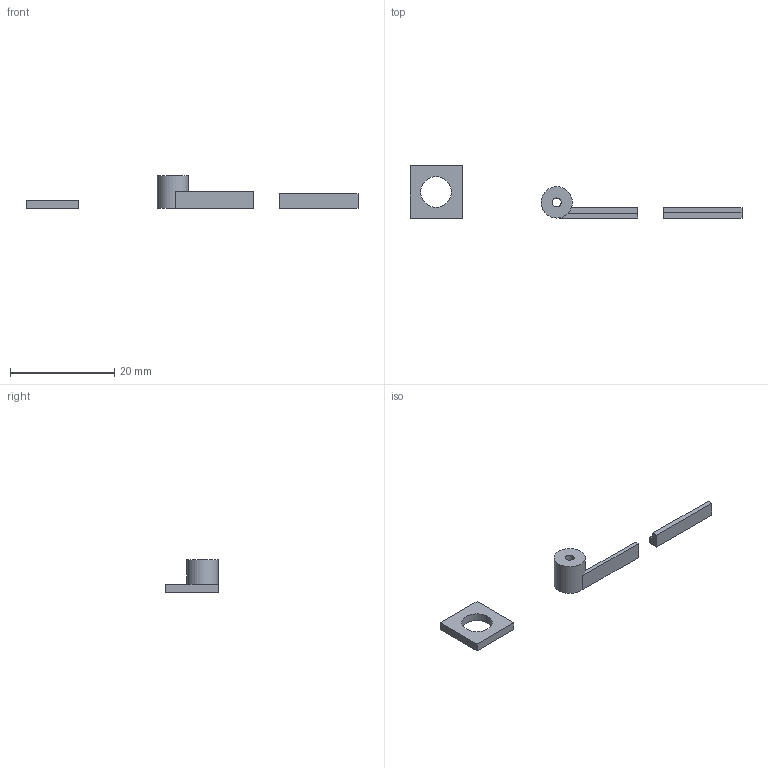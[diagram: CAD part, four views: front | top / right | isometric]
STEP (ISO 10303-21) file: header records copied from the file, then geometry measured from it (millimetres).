
FILE_DESCRIPTION(('FreeCAD Model'),'2;1');
FILE_NAME('Open CASCADE Shape Model','2026-10-15T01:40:16',('FreeCAD'),( 'FreeCAD'),'Open CASCADE STEP processor 7.8','FreeCAD','Unknown');
FILE_SCHEMA(('AUTOMOTIVE_DESIGN { 1 0 10303 214 1 1 1 1 }'));
Length unit declared in the file: millimetre
Products named in the file (1): Open CASCADE STEP translator 7.8 1
Bounding box: 63.72 x 10 x 6.3 mm (x, y, z)
Volume: 417.9 mm3; surface area: 764.8 mm2
Topology: 4 solids, 4 shells, 27 faces, 57 edges, 38 vertices
Faces by surface type: plane 24, cylinder 3
Full cylindrical faces by diameter (mm): 1.7 x1, 5.9 x1, 6 x1
Entity records: 729 total; most frequent: CARTESIAN_POINT 123, DIRECTION 119, ORIENTED_EDGE 114, EDGE_CURVE 57, LINE 51, VECTOR 51, VERTEX_POINT 38, AXIS2_PLACEMENT_3D 34
